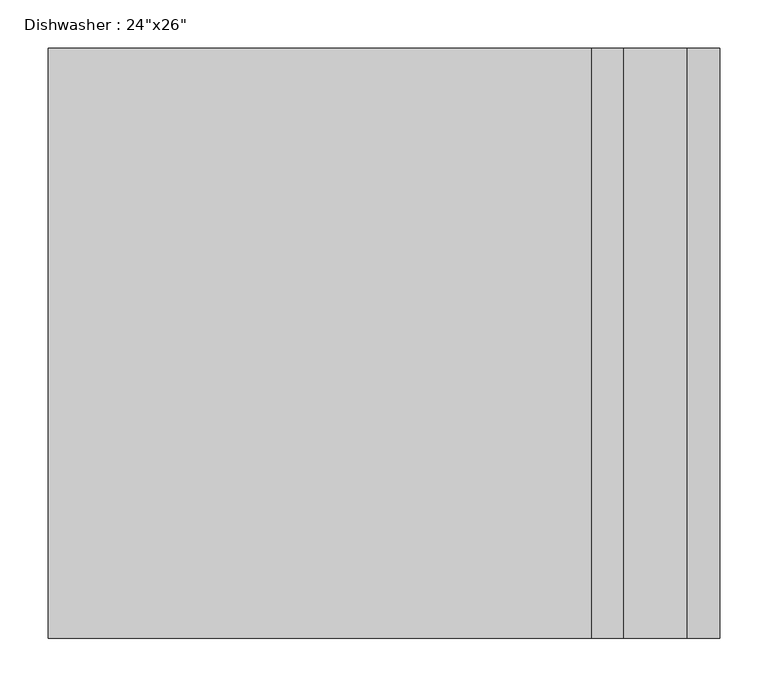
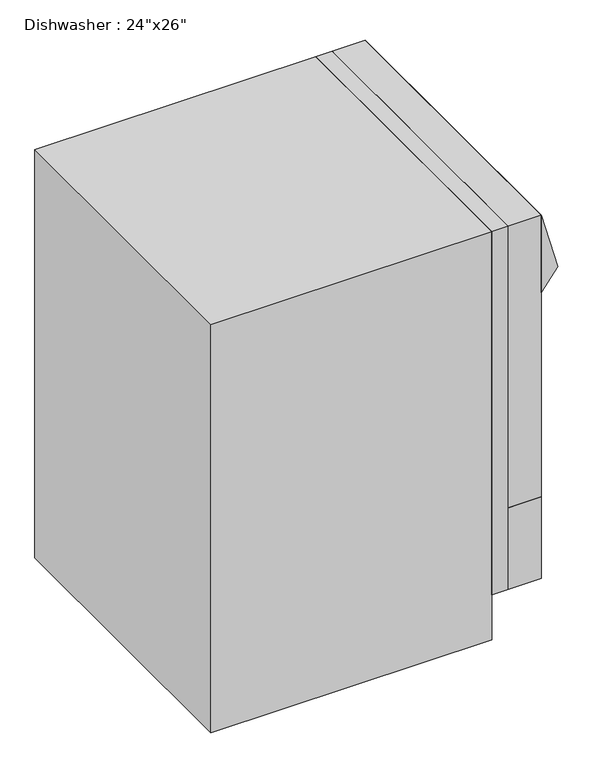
"""IFC4 building model written with IfcOpenShell, lengths in millimetres: flow terminal geometry."""

from ifc_helpers import new_model, si_unit, frame, origin, origin_with_axes, place, context, project, spatial, polyline, outline, extrude, source, transform, mapped, element, save


def flow_terminal_a640307d(model_context):
    return source(origin(), model_context, "Body", "SweptSolid", [
        extrude(outline(polyline([(660.4, -304.8), (594.51875, -304.8), (594.51875, 304.8), (660.4, 304.8), (660.4, -304.8)])), frame((0.0, 0.0, 95.25), z_axis=(0.0, 0.0, 1.0), x_axis=(1.0, 0.0, 0.0)), (0.0, 0.0, 1.0), 172.24375),
        extrude(outline(polyline([(561.18125, 304.8), (561.18125, -304.8), (0.0, -304.8), (0.0, 304.8), (561.18125, 304.8)])), origin_with_axes(), (0.0, 0.0, 1.0), 863.6),
        extrude(outline(polyline([(742.95, 693.7375), (863.6, 660.4), (699.29375, 660.4), (742.95, 693.7375)])), frame((0.0, -304.8, 0.0), z_axis=(0.0, 1.0, 0.0), x_axis=(0.0, 0.0, 1.0)), (0.0, 0.0, 1.0), 609.6),
        extrude(outline(polyline([(660.4, -304.8), (594.51875, -304.8), (594.51875, 304.8), (660.4, 304.8), (660.4, -304.8)])), frame((0.0, 0.0, 267.49375), z_axis=(0.0, 0.0, 1.0), x_axis=(1.0, 0.0, 0.0)), (0.0, 0.0, 1.0), 596.10625),
        extrude(outline(polyline([(594.51875, -304.8), (561.18125, -304.8), (561.18125, 304.8), (594.51875, 304.8), (594.51875, -304.8)])), frame((0.0, 0.0, 95.25), z_axis=(0.0, 0.0, 1.0), x_axis=(1.0, 0.0, 0.0)), (0.0, 0.0, 1.0), 768.35),
    ])


if __name__ == "__main__":
    model = new_model("IFC4")
    model_context = context("Model", 3, world=origin())
    ifc_project = project(units=[si_unit("LENGTHUNIT", "METRE", prefix="MILLI")], contexts=[model_context])
    site = spatial("IfcSite", under=ifc_project)
    building = spatial("IfcBuilding", under=site)
    placement = place(None, origin())
    flow_terminal_shape = flow_terminal_a640307d(model_context)
    element("IfcFlowTerminal", 1, ObjectType="Dishwasher : 24\"x26\"", at=placement, inside=building, context=model_context, shape_type="MappedRepresentation", body=[
        mapped(flow_terminal_shape, transform((0.0, 0.0, 0.0), x_axis=(1.0, 0.0, 0.0), y_axis=(0.0, 1.0, 0.0), z_axis=(0.0, 0.0, 1.0))),
    ])
    save(model, "model.ifc")
